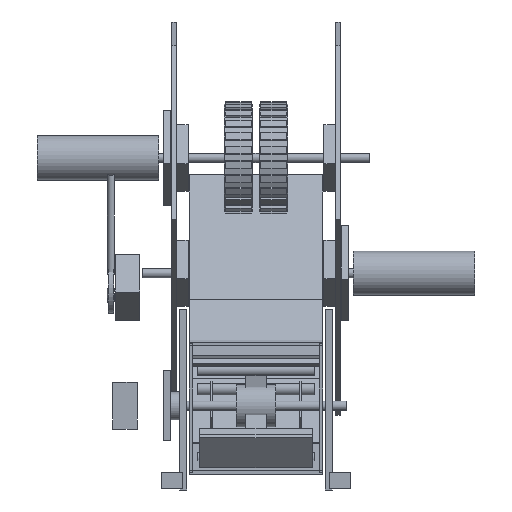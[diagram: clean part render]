
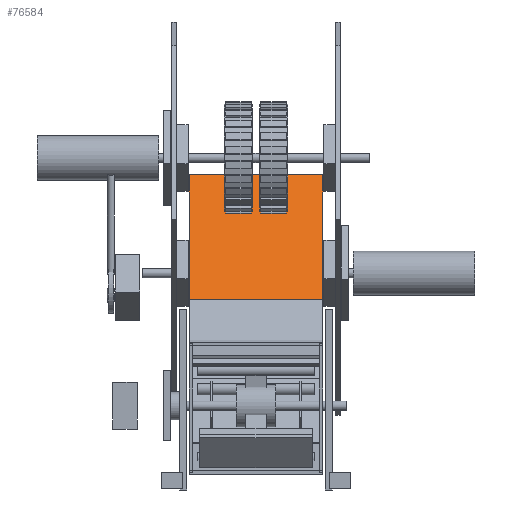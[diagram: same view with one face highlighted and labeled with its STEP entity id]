
A CAD part, left-side view. The second image highlights one B-rep face of the part: STEP entity #76584.
In plain terms, the highlighted planar face has unit normal (-0.788, 0, 0.616).
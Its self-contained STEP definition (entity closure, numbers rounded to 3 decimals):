
#76270 = VERTEX_POINT('',#76271);
#76271 = CARTESIAN_POINT('',(-75.333,-57.,163.917));
#76278 = PLANE('',#76279);
#76279 = AXIS2_PLACEMENT_3D('',#76280,#76281,#76282);
#76280 = CARTESIAN_POINT('',(-72.969,-57.,162.07));
#76281 = DIRECTION('',(0.616,0.,0.788));
#76282 = DIRECTION('',(-0.788,0.,0.616));
#76290 = PLANE('',#76291);
#76291 = AXIS2_PLACEMENT_3D('',#76292,#76293,#76294);
#76292 = CARTESIAN_POINT('',(-72.969,-57.,162.07));
#76293 = DIRECTION('',(0.,1.,0.));
#76294 = DIRECTION('',(-0.788,0.,0.616));
#76331 = VERTEX_POINT('',#76332);
#76332 = CARTESIAN_POINT('',(-75.333,57.,163.917));
#76346 = PLANE('',#76347);
#76347 = AXIS2_PLACEMENT_3D('',#76348,#76349,#76350);
#76348 = CARTESIAN_POINT('',(-72.969,57.,162.07));
#76349 = DIRECTION('',(0.,1.,0.));
#76350 = DIRECTION('',(-0.788,0.,0.616));
#76358 = EDGE_CURVE('',#76270,#76331,#76359,.T.);
#76359 = SURFACE_CURVE('',#76360,(#76364,#76371),.PCURVE_S1.);
#76360 = LINE('',#76361,#76362);
#76361 = CARTESIAN_POINT('',(-75.333,-57.,163.917));
#76362 = VECTOR('',#76363,1.);
#76363 = DIRECTION('',(0.,1.,0.));
#76364 = PCURVE('',#76278,#76365);
#76365 = DEFINITIONAL_REPRESENTATION('',(#76366),#76370);
#76366 = LINE('',#76367,#76368);
#76367 = CARTESIAN_POINT('',(3.,0.));
#76368 = VECTOR('',#76369,1.);
#76369 = DIRECTION('',(0.,-1.));
#76370 = ( GEOMETRIC_REPRESENTATION_CONTEXT(2) 
PARAMETRIC_REPRESENTATION_CONTEXT() REPRESENTATION_CONTEXT('2D SPACE',''
  ) );
#76371 = PCURVE('',#76372,#76377);
#76372 = PLANE('',#76373);
#76373 = AXIS2_PLACEMENT_3D('',#76374,#76375,#76376);
#76374 = CARTESIAN_POINT('',(-75.333,-57.,163.917));
#76375 = DIRECTION('',(-0.788,0.,0.616));
#76376 = DIRECTION('',(0.616,0.,0.788));
#76377 = DEFINITIONAL_REPRESENTATION('',(#76378),#76382);
#76378 = LINE('',#76379,#76380);
#76379 = CARTESIAN_POINT('',(0.,0.));
#76380 = VECTOR('',#76381,1.);
#76381 = DIRECTION('',(0.,1.));
#76382 = ( GEOMETRIC_REPRESENTATION_CONTEXT(2) 
PARAMETRIC_REPRESENTATION_CONTEXT() REPRESENTATION_CONTEXT('2D SPACE',''
  ) );
#76390 = VERTEX_POINT('',#76391);
#76391 = CARTESIAN_POINT('',(7.781,-57.,270.299));
#76398 = PLANE('',#76399);
#76399 = AXIS2_PLACEMENT_3D('',#76400,#76401,#76402);
#76400 = CARTESIAN_POINT('',(10.145,-57.,268.452));
#76401 = DIRECTION('',(0.616,0.,0.788));
#76402 = DIRECTION('',(-0.788,0.,0.616));
#76441 = VERTEX_POINT('',#76442);
#76442 = CARTESIAN_POINT('',(7.781,57.,270.299));
#76463 = EDGE_CURVE('',#76390,#76441,#76464,.T.);
#76464 = SURFACE_CURVE('',#76465,(#76469,#76476),.PCURVE_S1.);
#76465 = LINE('',#76466,#76467);
#76466 = CARTESIAN_POINT('',(7.781,-57.,270.299));
#76467 = VECTOR('',#76468,1.);
#76468 = DIRECTION('',(0.,1.,0.));
#76469 = PCURVE('',#76398,#76470);
#76470 = DEFINITIONAL_REPRESENTATION('',(#76471),#76475);
#76471 = LINE('',#76472,#76473);
#76472 = CARTESIAN_POINT('',(3.,0.));
#76473 = VECTOR('',#76474,1.);
#76474 = DIRECTION('',(0.,-1.));
#76475 = ( GEOMETRIC_REPRESENTATION_CONTEXT(2) 
PARAMETRIC_REPRESENTATION_CONTEXT() REPRESENTATION_CONTEXT('2D SPACE',''
  ) );
#76476 = PCURVE('',#76372,#76477);
#76477 = DEFINITIONAL_REPRESENTATION('',(#76478),#76482);
#76478 = LINE('',#76479,#76480);
#76479 = CARTESIAN_POINT('',(135.,0.));
#76480 = VECTOR('',#76481,1.);
#76481 = DIRECTION('',(0.,1.));
#76482 = ( GEOMETRIC_REPRESENTATION_CONTEXT(2) 
PARAMETRIC_REPRESENTATION_CONTEXT() REPRESENTATION_CONTEXT('2D SPACE',''
  ) );
#76509 = EDGE_CURVE('',#76270,#76390,#76510,.T.);
#76510 = SURFACE_CURVE('',#76511,(#76515,#76522),.PCURVE_S1.);
#76511 = LINE('',#76512,#76513);
#76512 = CARTESIAN_POINT('',(-75.333,-57.,163.917));
#76513 = VECTOR('',#76514,1.);
#76514 = DIRECTION('',(0.616,0.,0.788));
#76515 = PCURVE('',#76290,#76516);
#76516 = DEFINITIONAL_REPRESENTATION('',(#76517),#76521);
#76517 = LINE('',#76518,#76519);
#76518 = CARTESIAN_POINT('',(3.,0.));
#76519 = VECTOR('',#76520,1.);
#76520 = DIRECTION('',(0.,1.));
#76521 = ( GEOMETRIC_REPRESENTATION_CONTEXT(2) 
PARAMETRIC_REPRESENTATION_CONTEXT() REPRESENTATION_CONTEXT('2D SPACE',''
  ) );
#76522 = PCURVE('',#76372,#76523);
#76523 = DEFINITIONAL_REPRESENTATION('',(#76524),#76528);
#76524 = LINE('',#76525,#76526);
#76525 = CARTESIAN_POINT('',(0.,0.));
#76526 = VECTOR('',#76527,1.);
#76527 = DIRECTION('',(1.,0.));
#76528 = ( GEOMETRIC_REPRESENTATION_CONTEXT(2) 
PARAMETRIC_REPRESENTATION_CONTEXT() REPRESENTATION_CONTEXT('2D SPACE',''
  ) );
#76556 = EDGE_CURVE('',#76331,#76441,#76557,.T.);
#76557 = SURFACE_CURVE('',#76558,(#76562,#76569),.PCURVE_S1.);
#76558 = LINE('',#76559,#76560);
#76559 = CARTESIAN_POINT('',(-75.333,57.,163.917));
#76560 = VECTOR('',#76561,1.);
#76561 = DIRECTION('',(0.616,0.,0.788));
#76562 = PCURVE('',#76346,#76563);
#76563 = DEFINITIONAL_REPRESENTATION('',(#76564),#76568);
#76564 = LINE('',#76565,#76566);
#76565 = CARTESIAN_POINT('',(3.,0.));
#76566 = VECTOR('',#76567,1.);
#76567 = DIRECTION('',(0.,1.));
#76568 = ( GEOMETRIC_REPRESENTATION_CONTEXT(2) 
PARAMETRIC_REPRESENTATION_CONTEXT() REPRESENTATION_CONTEXT('2D SPACE',''
  ) );
#76569 = PCURVE('',#76372,#76570);
#76570 = DEFINITIONAL_REPRESENTATION('',(#76571),#76575);
#76571 = LINE('',#76572,#76573);
#76572 = CARTESIAN_POINT('',(0.,114.));
#76573 = VECTOR('',#76574,1.);
#76574 = DIRECTION('',(1.,0.));
#76575 = ( GEOMETRIC_REPRESENTATION_CONTEXT(2) 
PARAMETRIC_REPRESENTATION_CONTEXT() REPRESENTATION_CONTEXT('2D SPACE',''
  ) );
#76584 = ADVANCED_FACE('',(#76585),#76372,.T.);
#76585 = FACE_BOUND('',#76586,.T.);
#76586 = EDGE_LOOP('',(#76587,#76588,#76589,#76590));
#76587 = ORIENTED_EDGE('',*,*,#76358,.F.);
#76588 = ORIENTED_EDGE('',*,*,#76509,.T.);
#76589 = ORIENTED_EDGE('',*,*,#76463,.T.);
#76590 = ORIENTED_EDGE('',*,*,#76556,.F.);
